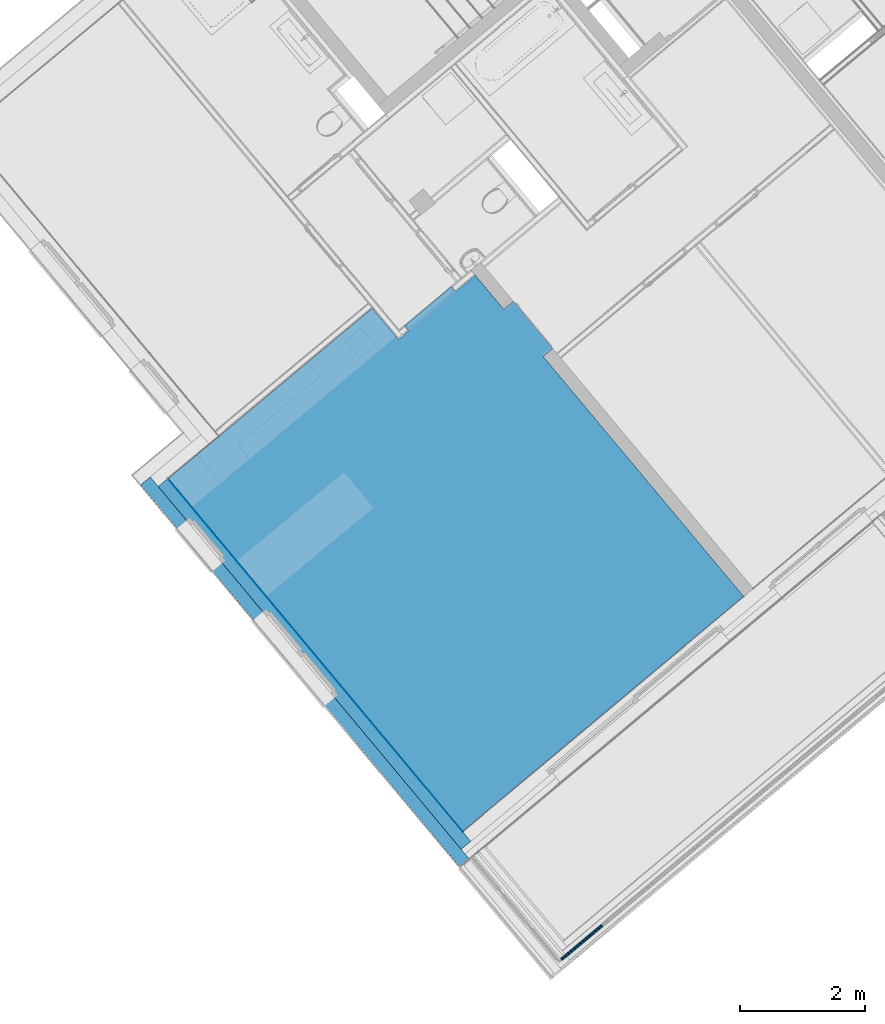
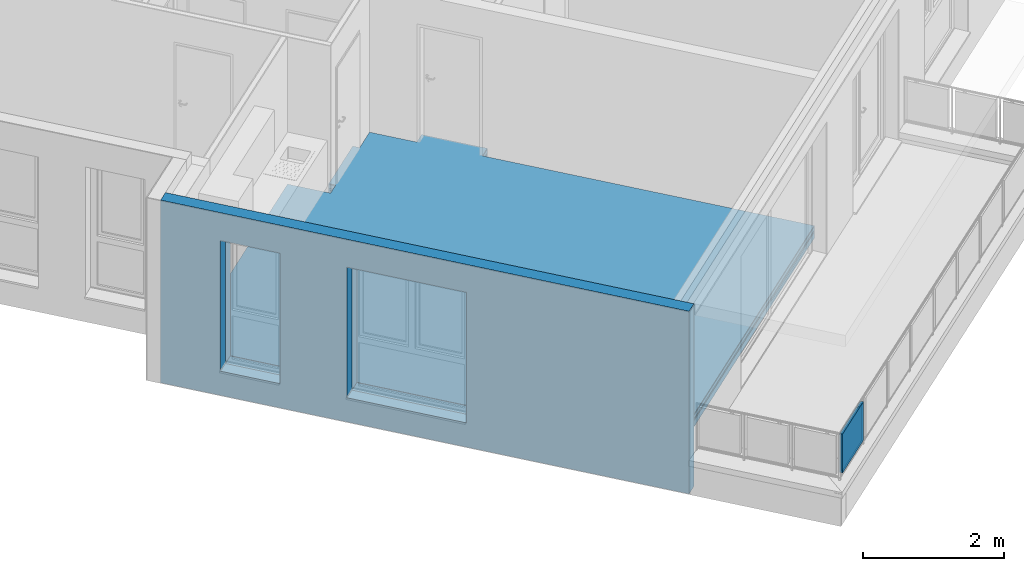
# One storey, part 18 of 53: 9 building element parts, 2 openings, 3 elements without a shape of their own.
"""IFC4 building model written with IfcOpenShell, lengths in metres."""

from ifc_helpers import new_model, entity, si_unit, converted_unit, derived_unit, direction, frame, origin_with_axes, place, context, subcontext, project, spatial, polygons, material, type_object, element, aggregate, save


model = new_model("IFC4")

# Units and contexts
model_context = context("Model", 3, precision=1e-05, world=origin_with_axes(), true_north=direction((0.0, 1.0)))
body_context = subcontext(model_context, "Body", "Model", "MODEL_VIEW")
ifc_project = project(units=[si_unit("LENGTHUNIT", "METRE"), si_unit("AREAUNIT", "SQUARE_METRE"), si_unit("VOLUMEUNIT", "CUBIC_METRE"), converted_unit("PLANEANGLEUNIT", "DEGREE", entity("IfcPlaneAngleMeasure", 0.0174532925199), si_unit("PLANEANGLEUNIT", "RADIAN"), dimensions=[0, 0, 0, 0, 0, 0, 0]), converted_unit("TIMEUNIT", "Year", entity("IfcTimeMeasure", 31556926.0), si_unit("TIMEUNIT", "SECOND"), dimensions=[0, 0, 1, 0, 0, 0, 0]), si_unit("MASSUNIT", "GRAM", prefix="KILO"), si_unit("THERMODYNAMICTEMPERATUREUNIT", "DEGREE_CELSIUS"), si_unit("LUMINOUSINTENSITYUNIT", "LUMEN"), si_unit("ENERGYUNIT", "JOULE", prefix="MEGA"), derived_unit("THERMALCONDUCTANCEUNIT", [(si_unit("POWERUNIT", "WATT"), 1), (si_unit("LENGTHUNIT", "METRE"), -1), (si_unit("THERMODYNAMICTEMPERATUREUNIT", "KELVIN"), -1)]), derived_unit("SPECIFICHEATCAPACITYUNIT", [(si_unit("ENERGYUNIT", "JOULE"), 1), (si_unit("MASSUNIT", "GRAM", prefix="KILO"), -1), (si_unit("THERMODYNAMICTEMPERATUREUNIT", "KELVIN"), -1)]), derived_unit("MASSDENSITYUNIT", [(si_unit("MASSUNIT", "GRAM", prefix="KILO"), 1), (si_unit("VOLUMEUNIT", "CUBIC_METRE"), -1)])], contexts=[model_context])

# Site, building, storey
site_placement = place(None, frame((-0.00153261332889, -0.00661245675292, 0.0), z_axis=(0.0, 0.0, 1.0), x_axis=(1.0, 0.0, 0.0)))
site = spatial("IfcSite", under=ifc_project, at=site_placement, Name="Gelände", CompositionType="ELEMENT")
building_placement = place(site_placement, origin_with_axes())
building = spatial("IfcBuilding", under=site, at=building_placement, Name="Gebäude", CompositionType="ELEMENT")
storey_placement = place(building_placement, frame((0.0, 0.0, 2.74), z_axis=(0.0, 0.0, 1.0), x_axis=(1.0, 0.0, 0.0)))
storey = spatial("IfcBuildingStorey", under=building, at=storey_placement, Name="OG1", CompositionType="ELEMENT", Elevation=2.74)

# Covering, building element parts
covering_type = type_object("IfcCoveringType", Name="DE 01 Decke Wohnung/Wohnung Parkett 220", PredefinedType="NOTDEFINED")
covering_placement = place(storey_placement, frame((-5.70397946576, 14.4521649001, 0.22), z_axis=(0.0, 0.0, 1.0), x_axis=(1.0, 0.0, 0.0)))
covering = element("IfcCovering", 1, at=covering_placement, inside=storey, type_object=covering_type, Name="Decke-008", PredefinedType="NOTDEFINED")
ifc_material_1 = material(Name="Parkett")
building_element_part_1_placement = place(covering_placement, origin_with_axes())
building_element_part_1 = element("IfcBuildingElementPart", 2, at=building_element_part_1_placement, material=ifc_material_1, Name="Parkett", PredefinedType="NOTDEFINED", context=body_context, shape_type="Tessellation", body=[
    polygons([(0.0, 0.0, 0.0), (0.0, 0.0, -0.015), (4.72287580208, -5.65659490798, -0.015), (4.72287580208, -5.65659490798, 0.0), (0.816505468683, 0.678801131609, 0.0), (0.816505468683, 0.678801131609, -0.015), (9.22431998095, -1.89021530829, -0.015), (0.815654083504, 0.679820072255, -0.015), (3.27141938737, 2.73185313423, -0.015), (3.68817916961, 2.23309701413, -0.015), (3.84896946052, 2.36745312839, -0.015), (3.78164240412, 2.4480265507, -0.015), (4.54133474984, 3.08282396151, -0.015), (4.60866166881, 3.00225040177, -0.015), (4.91929369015, 3.26181401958, -0.015), (5.37753149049, 2.71341900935, -0.015), (5.53100473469, 2.84166079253, -0.015), (6.16580214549, 2.08196858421, -0.015), (6.01232903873, 1.9537266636, -0.015), (9.22431998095, -1.89021530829, 0.0), (0.815654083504, 0.679820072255, 0.0), (6.01232903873, 1.9537266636, 0.0), (6.16580214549, 2.08196858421, 0.0), (5.53100473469, 2.84166079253, 0.0), (5.37753149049, 2.71341900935, 0.0), (4.91929369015, 3.26181401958, 0.0), (4.60866166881, 3.00225040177, 0.0), (4.54133474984, 3.08282396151, 0.0), (3.78164240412, 2.4480265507, 0.0), (3.84896946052, 2.36745312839, 0.0), (3.68817916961, 2.23309701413, 0.0), (3.27141938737, 2.73185313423, 0.0)], [[[1, 2, 3, 4]], [[5, 6, 2, 1]], [[7, 3, 2, 6, 8, 9, 10, 11, 12, 13, 14, 15, 16, 17, 18, 19]], [[4, 3, 7, 20]], [[21, 5, 1, 4, 20, 22, 23, 24, 25, 26, 27, 28, 29, 30, 31, 32]], [[21, 8, 6, 5]], [[32, 9, 8, 21]], [[31, 10, 9, 32]], [[30, 11, 10, 31]], [[29, 12, 11, 30]], [[28, 13, 12, 29]], [[27, 14, 13, 28]], [[26, 15, 14, 27]], [[25, 16, 15, 26]], [[24, 17, 16, 25]], [[23, 18, 17, 24]], [[22, 19, 18, 23]], [[20, 7, 19, 22]]], closed=True),
])
ifc_material_2 = material(Name="Estrich")
building_element_part_2_placement = place(covering_placement, origin_with_axes())
building_element_part_2 = element("IfcBuildingElementPart", 3, at=building_element_part_2_placement, material=ifc_material_2, Name="Estrich", PredefinedType="NOTDEFINED", context=body_context, shape_type="Tessellation", body=[
    polygons([(0.0, 0.0, -0.015), (0.0, 0.0, -0.08), (4.72287580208, -5.65659490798, -0.08), (4.72287580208, -5.65659490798, -0.015), (0.816505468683, 0.678801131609, -0.015), (0.816505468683, 0.678801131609, -0.08), (9.22431998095, -1.89021530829, -0.08), (0.815654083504, 0.679820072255, -0.08), (3.27141938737, 2.73185313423, -0.08), (3.68817916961, 2.23309701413, -0.08), (3.84896946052, 2.36745312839, -0.08), (3.78164240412, 2.4480265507, -0.08), (4.54133474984, 3.08282396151, -0.08), (4.60866166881, 3.00225040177, -0.08), (4.91929369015, 3.26181401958, -0.08), (5.37753149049, 2.71341900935, -0.08), (5.53100473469, 2.84166079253, -0.08), (6.16580214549, 2.08196858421, -0.08), (6.01232903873, 1.9537266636, -0.08), (9.22431998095, -1.89021530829, -0.015), (0.815654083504, 0.679820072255, -0.015), (6.01232903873, 1.9537266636, -0.015), (6.16580214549, 2.08196858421, -0.015), (5.53100473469, 2.84166079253, -0.015), (5.37753149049, 2.71341900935, -0.015), (4.91929369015, 3.26181401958, -0.015), (4.60866166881, 3.00225040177, -0.015), (4.54133474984, 3.08282396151, -0.015), (3.78164240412, 2.4480265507, -0.015), (3.84896946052, 2.36745312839, -0.015), (3.68817916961, 2.23309701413, -0.015), (3.27141938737, 2.73185313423, -0.015)], [[[1, 2, 3, 4]], [[5, 6, 2, 1]], [[7, 3, 2, 6, 8, 9, 10, 11, 12, 13, 14, 15, 16, 17, 18, 19]], [[4, 3, 7, 20]], [[21, 5, 1, 4, 20, 22, 23, 24, 25, 26, 27, 28, 29, 30, 31, 32]], [[21, 8, 6, 5]], [[32, 9, 8, 21]], [[31, 10, 9, 32]], [[30, 11, 10, 31]], [[29, 12, 11, 30]], [[28, 13, 12, 29]], [[27, 14, 13, 28]], [[26, 15, 14, 27]], [[25, 16, 15, 26]], [[24, 17, 16, 25]], [[23, 18, 17, 24]], [[22, 19, 18, 23]], [[20, 7, 19, 22]]], closed=True),
])
ifc_material_3 = material(Name="Trittschalldämmung")
building_element_part_3_placement = place(covering_placement, origin_with_axes())
building_element_part_3 = element("IfcBuildingElementPart", 4, at=building_element_part_3_placement, material=ifc_material_3, Name="Trittschalldämmung", PredefinedType="NOTDEFINED", context=body_context, shape_type="Tessellation", body=[
    polygons([(0.0, 0.0, -0.08), (0.0, 0.0, -0.11), (4.72287580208, -5.65659490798, -0.11), (4.72287580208, -5.65659490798, -0.08), (0.816505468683, 0.678801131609, -0.08), (0.816505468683, 0.678801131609, -0.11), (9.22431998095, -1.89021530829, -0.11), (0.815654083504, 0.679820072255, -0.11), (3.27141938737, 2.73185313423, -0.11), (3.68817916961, 2.23309701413, -0.11), (3.84896946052, 2.36745312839, -0.11), (3.78164240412, 2.4480265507, -0.11), (4.54133474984, 3.08282396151, -0.11), (4.60866166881, 3.00225040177, -0.11), (4.91929369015, 3.26181401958, -0.11), (5.37753149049, 2.71341900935, -0.11), (5.53100473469, 2.84166079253, -0.11), (6.16580214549, 2.08196858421, -0.11), (6.01232903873, 1.9537266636, -0.11), (9.22431998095, -1.89021530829, -0.08), (0.815654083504, 0.679820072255, -0.08), (6.01232903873, 1.9537266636, -0.08), (6.16580214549, 2.08196858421, -0.08), (5.53100473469, 2.84166079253, -0.08), (5.37753149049, 2.71341900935, -0.08), (4.91929369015, 3.26181401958, -0.08), (4.60866166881, 3.00225040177, -0.08), (4.54133474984, 3.08282396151, -0.08), (3.78164240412, 2.4480265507, -0.08), (3.84896946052, 2.36745312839, -0.08), (3.68817916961, 2.23309701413, -0.08), (3.27141938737, 2.73185313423, -0.08)], [[[1, 2, 3, 4]], [[5, 6, 2, 1]], [[7, 3, 2, 6, 8, 9, 10, 11, 12, 13, 14, 15, 16, 17, 18, 19]], [[4, 3, 7, 20]], [[21, 5, 1, 4, 20, 22, 23, 24, 25, 26, 27, 28, 29, 30, 31, 32]], [[21, 8, 6, 5]], [[32, 9, 8, 21]], [[31, 10, 9, 32]], [[30, 11, 10, 31]], [[29, 12, 11, 30]], [[28, 13, 12, 29]], [[27, 14, 13, 28]], [[26, 15, 14, 27]], [[25, 16, 15, 26]], [[24, 17, 16, 25]], [[23, 18, 17, 24]], [[22, 19, 18, 23]], [[20, 7, 19, 22]]], closed=True),
])
ifc_material_4 = material(Name="Schüttung")
building_element_part_4_placement = place(covering_placement, origin_with_axes())
building_element_part_4 = element("IfcBuildingElementPart", 5, at=building_element_part_4_placement, material=ifc_material_4, Name="Schüttung", PredefinedType="NOTDEFINED", context=body_context, shape_type="Tessellation", body=[
    polygons([(4.72287580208, -5.65659490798, -0.11), (0.0, 0.0, -0.11), (0.0, 0.0, -0.22), (4.72287580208, -5.65659490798, -0.22), (0.815654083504, 0.679820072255, -0.11), (0.816505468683, 0.678801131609, -0.11), (9.22431998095, -1.89021530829, -0.11), (6.01232903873, 1.9537266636, -0.11), (6.16580214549, 2.08196858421, -0.11), (5.53100473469, 2.84166079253, -0.11), (5.37753149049, 2.71341900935, -0.11), (4.91929369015, 3.26181401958, -0.11), (4.60866166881, 3.00225040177, -0.11), (4.54133474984, 3.08282396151, -0.11), (3.78164240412, 2.4480265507, -0.11), (3.84896946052, 2.36745312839, -0.11), (3.68817916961, 2.23309701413, -0.11), (3.27141938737, 2.73185313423, -0.11), (0.816505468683, 0.678801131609, -0.22), (9.22431998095, -1.89021530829, -0.22), (0.815654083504, 0.679820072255, -0.22), (3.27141938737, 2.73185313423, -0.22), (3.68817916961, 2.23309701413, -0.22), (3.84896946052, 2.36745312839, -0.22), (3.78164240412, 2.4480265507, -0.22), (4.54133474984, 3.08282396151, -0.22), (4.60866166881, 3.00225040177, -0.22), (4.91929369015, 3.26181401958, -0.22), (5.37753149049, 2.71341900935, -0.22), (5.53100473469, 2.84166079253, -0.22), (6.16580214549, 2.08196858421, -0.22), (6.01232903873, 1.9537266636, -0.22)], [[[1, 2, 3, 4]], [[5, 6, 2, 1, 7, 8, 9, 10, 11, 12, 13, 14, 15, 16, 17, 18]], [[2, 6, 19, 3]], [[20, 4, 3, 19, 21, 22, 23, 24, 25, 26, 27, 28, 29, 30, 31, 32]], [[7, 1, 4, 20]], [[6, 5, 21, 19]], [[8, 7, 20, 32]], [[9, 8, 32, 31]], [[10, 9, 31, 30]], [[11, 10, 30, 29]], [[12, 11, 29, 28]], [[13, 12, 28, 27]], [[14, 13, 27, 26]], [[15, 14, 26, 25]], [[16, 15, 25, 24]], [[17, 16, 24, 23]], [[18, 17, 23, 22]], [[5, 18, 22, 21]]], closed=True),
])
aggregate(covering, [building_element_part_1, building_element_part_2, building_element_part_3, building_element_part_4])

# Space
space_placement = place(storey_placement, frame((5.82112883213, 13.939405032, 0.22), z_axis=(0.0, 0.0, 1.0), x_axis=(-0.766948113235, -0.641709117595, 0.0)))
space = spatial("IfcSpace", under=storey, at=space_placement, CompositionType="ELEMENT", PredefinedType="NOTDEFINED")

# Wall, openings, building element parts
wall_type = type_object("IfcWallType", Name="AW EG 420", PredefinedType="NOTDEFINED")
wall_placement = place(space_placement, frame((8.92967801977, -8.21035466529, -0.42), z_axis=(0.0, 0.0, 1.0), x_axis=(0.00104326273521, 0.999999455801, 0.0)))
wall = element("IfcWall", 6, at=wall_placement, inside=space, type_object=wall_type, Name="Wand-003", PredefinedType="NOTDEFINED")
opening_1_placement = place(wall_placement, frame((3.93119741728, 0.0, 0.42), z_axis=(0.0, 0.0, 1.0), x_axis=(1.0, 0.0, 0.0)))
element("IfcOpeningElement", 7, at=opening_1_placement, cuts=wall, Name="Fenster-001", context=body_context, identifier="Reference", shape_type="Tessellation", body=[
    polygons([(0.9, 0.215, 0.0), (0.9, 0.215, 2.26), (0.9, -4.04027070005, 2.26), (0.9, -4.04027070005, 0.0), (0.9, 4.46027070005, 0.0), (0.9, 4.46027070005, 2.26), (-0.9, 0.215, 2.26), (-0.9, -4.04027070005, 2.26), (-0.9, 4.46027070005, 2.26), (-0.9, -4.04027070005, 0.0), (-0.9, 0.215, 0.0), (-0.9, 4.46027070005, 0.0)], [[[1, 2, 3, 4]], [[2, 1, 5, 6]], [[7, 8, 3, 2, 6, 9]], [[8, 10, 4, 3]], [[1, 4, 10, 11, 12, 5]], [[6, 5, 12, 9]], [[7, 11, 10, 8]], [[11, 7, 9, 12]]], closed=True),
])
opening_2_placement = place(wall_placement, frame((1.57118282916, 0.0, 0.42), z_axis=(0.0, 0.0, 1.0), x_axis=(1.0, 0.0, 0.0)))
element("IfcOpeningElement", 8, at=opening_2_placement, cuts=wall, Name="Fenster-001", context=body_context, identifier="Reference", shape_type="Tessellation", body=[
    polygons([(0.45, 0.215, 0.0), (0.45, 0.215, 2.26), (0.45, -4.04027070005, 2.26), (0.45, -4.04027070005, 0.0), (0.45, 4.46027070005, 0.0), (0.45, 4.46027070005, 2.26), (-0.45, 0.215, 2.26), (-0.45, -4.04027070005, 2.26), (-0.45, 4.46027070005, 2.26), (-0.45, -4.04027070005, 0.0), (-0.45, 0.215, 0.0), (-0.45, 4.46027070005, 0.0)], [[[1, 2, 3, 4]], [[2, 1, 5, 6]], [[7, 8, 3, 2, 6, 9]], [[8, 10, 4, 3]], [[1, 4, 10, 11, 12, 5]], [[6, 5, 12, 9]], [[7, 11, 10, 8]], [[11, 7, 9, 12]]], closed=True),
])
ifc_material_5 = material(Name="Zementputz")
building_element_part_5_placement = place(wall_placement, origin_with_axes())
building_element_part_5 = element("IfcBuildingElementPart", 9, at=building_element_part_5_placement, material=ifc_material_5, Name="Zementputz", PredefinedType="NOTDEFINED", context=body_context, shape_type="Tessellation", body=[
    polygons([(0.420878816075, 0.415, 0.2), (7.79492595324, 0.415, 0.2), (7.79492595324, 0.415, 2.96), (0.420878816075, 0.415, 2.96), (3.03119741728, 0.415, 2.68), (4.83119741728, 0.415, 2.68), (4.83119741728, 0.415, 0.42), (3.03119741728, 0.415, 0.42), (1.12118282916, 0.415, 0.42), (1.12118282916, 0.415, 2.68), (2.02118282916, 0.415, 2.68), (2.02118282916, 0.415, 0.42), (0.420889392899, 0.42, 0.2), (7.79492073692, 0.42, 0.2), (7.79492073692, 0.42, 2.96), (0.420889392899, 0.42, 2.96), (4.83119741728, 0.42, 2.68), (3.03119741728, 0.42, 2.68), (4.83119741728, 0.42, 0.42), (3.03119741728, 0.42, 0.42), (1.12118282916, 0.42, 0.42), (1.12118282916, 0.42, 2.68), (2.02118282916, 0.42, 2.68), (2.02118282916, 0.42, 0.42)], [[[1, 2, 3, 4], [5, 6, 7, 8], [9, 10, 11, 12]], [[2, 1, 13, 14]], [[2, 14, 15, 3]], [[16, 4, 3, 15]], [[13, 1, 4, 16]], [[17, 6, 5, 18]], [[19, 7, 6, 17]], [[20, 8, 7, 19]], [[18, 5, 8, 20]], [[21, 22, 10, 9]], [[22, 23, 11, 10]], [[23, 24, 12, 11]], [[24, 21, 9, 12]], [[14, 13, 16, 15], [19, 17, 18, 20], [21, 24, 23, 22]]], closed=True),
])
ifc_material_6 = material(Name="Stahlbeton Wand")
building_element_part_6_placement = place(wall_placement, origin_with_axes())
building_element_part_6 = element("IfcBuildingElementPart", 10, at=building_element_part_6_placement, material=ifc_material_6, Name="Stahlbeton Wand", PredefinedType="NOTDEFINED", context=body_context, shape_type="Tessellation", body=[
    polygons([(0.415455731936, 0.215, 0.0), (7.99513471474, 0.215, 0.0), (7.99513471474, 0.215, 2.96), (0.415455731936, 0.215, 2.96), (3.03119741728, 0.215, 2.68), (4.83119741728, 0.215, 2.68), (4.83119741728, 0.215, 0.42), (3.03119741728, 0.215, 0.42), (1.12118282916, 0.215, 0.42), (1.12118282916, 0.215, 2.68), (2.02118282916, 0.215, 2.68), (2.02118282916, 0.215, 0.42), (0.415456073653, 0.215161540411, 0.0), (7.99513145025, 0.21812909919, 0.0), (7.99492606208, 0.415, 2.96), (7.99513145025, 0.21812909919, 0.2), (7.99492606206, 0.415, 0.2), (0.415878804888, 0.415, 2.96), (0.415878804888, 0.415, 0.2), (0.415456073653, 0.215161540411, 0.2), (4.83119741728, 0.415, 2.68), (3.03119741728, 0.415, 2.68), (4.83119741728, 0.415, 0.42), (3.03119741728, 0.415, 0.42), (1.12118282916, 0.415, 0.42), (1.12118282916, 0.415, 2.68), (2.02118282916, 0.415, 2.68), (2.02118282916, 0.415, 0.42)], [[[1, 2, 3, 4], [5, 6, 7, 8], [9, 10, 11, 12]], [[2, 1, 13, 14]], [[15, 3, 2, 14, 16, 17]], [[18, 4, 3, 15]], [[4, 18, 19, 20, 13, 1]], [[21, 6, 5, 22]], [[23, 7, 6, 21]], [[24, 8, 7, 23]], [[22, 5, 8, 24]], [[25, 26, 10, 9]], [[26, 27, 11, 10]], [[27, 28, 12, 11]], [[28, 25, 9, 12]], [[13, 20, 16, 14]], [[16, 20, 19, 17]], [[17, 19, 18, 15], [23, 21, 22, 24], [25, 28, 27, 26]]], closed=True),
])
ifc_material_7 = material(Name="EPS 1")
building_element_part_7_placement = place(wall_placement, origin_with_axes())
building_element_part_7 = element("IfcBuildingElementPart", 11, at=building_element_part_7_placement, material=ifc_material_7, Name="EPS 1", PredefinedType="NOTDEFINED", context=body_context, shape_type="Tessellation", body=[
    polygons([(0.215032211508, 0.015, 3.16), (0.215032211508, 0.015, 0.0), (8.19534347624, 0.015, 0.0), (8.19534347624, 0.015, 3.16), (3.03119741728, 0.015, 2.68), (4.83119741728, 0.015, 2.68), (4.83119741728, 0.015, 0.42), (3.03119741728, 0.015, 0.42), (1.12118282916, 0.015, 0.42), (1.12118282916, 0.015, 2.68), (2.02118282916, 0.015, 2.68), (2.02118282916, 0.015, 0.42), (0.21545528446, 0.215, 3.16), (0.21545528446, 0.215, 0.0), (8.09014223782, 0.214862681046, 0.0), (8.19513496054, 0.214868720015, 0.0), (8.09014213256, 0.215, 0.0), (8.19513496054, 0.214868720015, 0.2), (8.19513482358, 0.215, 0.2), (8.19513482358, 0.215, 2.96), (8.19513496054, 0.214868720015, 2.96), (8.19513496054, 0.214868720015, 3.16), (8.09014223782, 0.214862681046, 3.16), (8.09014209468, 0.215, 3.16), (4.83119741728, 0.215, 2.68), (3.03119741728, 0.215, 2.68), (4.83119741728, 0.215, 0.42), (3.03119741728, 0.215, 0.42), (1.12118282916, 0.215, 0.42), (1.12118282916, 0.215, 2.68), (2.02118282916, 0.215, 2.68), (2.02118282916, 0.215, 0.42), (8.09014213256, 0.215, 0.2), (8.09014209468, 0.215, 2.96), (8.09014223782, 0.214862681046, 0.2), (8.09014223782, 0.214862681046, 2.96)], [[[1, 2, 3, 4], [5, 6, 7, 8], [9, 10, 11, 12]], [[2, 1, 13, 14]], [[15, 16, 3, 2, 14, 17]], [[4, 3, 16, 18, 19, 20, 21, 22]], [[23, 24, 13, 1, 4, 22]], [[25, 6, 5, 26]], [[27, 7, 6, 25]], [[28, 8, 7, 27]], [[26, 5, 8, 28]], [[29, 30, 10, 9]], [[30, 31, 11, 10]], [[31, 32, 12, 11]], [[32, 29, 9, 12]], [[20, 19, 33, 17, 14, 13, 24, 34], [27, 25, 26, 28], [29, 32, 31, 30]], [[15, 35, 18, 16]], [[35, 15, 17, 33]], [[18, 35, 33, 19]], [[34, 36, 21, 20]], [[21, 36, 23, 22]], [[23, 36, 34, 24]]], closed=True),
])
aggregate(wall, [building_element_part_5, building_element_part_6, building_element_part_7])

# Railing, building element parts
railing_type = type_object("IfcRailingType", Name="Geländerart", PredefinedType="NOTDEFINED")
railing_placement = place(space_placement, frame((8.7233739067, 0.0, 0.16), z_axis=(0.0, 0.0, 1.0), x_axis=(-0.766948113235, 0.641709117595, 0.0)))
railing = element("IfcRailing", 12, at=railing_placement, inside=space, type_object=railing_type, Name="Geländer - 001", PredefinedType="NOTDEFINED")
ifc_material_8 = material(Name="Profilit")
building_element_part_8_placement = place(railing_placement, origin_with_axes())
building_element_part_8 = element("IfcBuildingElementPart", 13, at=building_element_part_8_placement, material=ifc_material_8, Name="Profilit", PredefinedType="NOTDEFINED", context=body_context, shape_type="Tessellation", body=[
    polygons([(2.10401614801, -1.05520223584, 0.135), (1.47202293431, -1.58342449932, 0.135), (1.47202293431, -1.58342449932, 0.775), (2.10401614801, -1.05520223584, 0.775), (1.48484898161, -1.59877026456, 0.135), (2.11684219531, -1.07054800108, 0.135), (1.48484898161, -1.59877026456, 0.775), (2.11684219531, -1.07054800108, 0.775)], [[[1, 2, 3, 4]], [[5, 2, 1, 6]], [[7, 3, 2, 5]], [[4, 3, 7, 8]], [[1, 4, 8, 6]], [[7, 5, 6, 8]]], closed=True),
])
ifc_material_9 = material(Name="Aluminium")
building_element_part_9_placement = place(railing_placement, origin_with_axes())
building_element_part_9 = element("IfcBuildingElementPart", 14, at=building_element_part_9_placement, material=ifc_material_9, Name="Aluminium", PredefinedType="NOTDEFINED", context=body_context, shape_type="Tessellation", body=[
    polygons([(1.54205220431, -1.53466846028, 0.12), (1.59576238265, -1.48977729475, 0.12), (1.59576238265, -1.48977729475, 0.095), (1.54205220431, -1.53466846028, 0.095), (1.54525871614, -1.53850490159, 0.12), (1.59896889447, -1.49361373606, 0.12), (1.59896889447, -1.49361373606, 0.095), (1.54525871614, -1.53850490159, 0.095)], [[[1, 2, 3, 4]], [[5, 6, 2, 1]], [[2, 6, 7, 3]], [[4, 3, 7, 8]], [[1, 4, 8, 5]], [[8, 7, 6, 5]]], closed=True),
    polygons([(2.04360641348, -1.11546759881, 0.79), (1.98989623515, -1.16035876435, 0.79), (1.98989623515, -1.16035876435, 0.795), (2.04360641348, -1.11546759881, 0.795), (2.04681292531, -1.11930404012, 0.79), (1.99310274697, -1.16419520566, 0.79), (1.99310274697, -1.16419520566, 0.795), (2.04681292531, -1.11930404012, 0.795)], [[[1, 2, 3, 4]], [[5, 6, 2, 1]], [[2, 6, 7, 3]], [[4, 3, 7, 8]], [[1, 4, 8, 5]], [[8, 7, 6, 5]]], closed=True),
    polygons([(1.48295919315, -1.61989912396, 0.12), (1.45089407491, -1.58153471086, 0.12), (2.10590593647, -1.03407337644, 0.12), (2.13797105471, -1.07243778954, 0.12), (1.49830495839, -1.60707307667, 0.14), (1.48868542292, -1.59556375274, 0.14), (1.48484898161, -1.59877026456, 0.135), (1.47202293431, -1.58342449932, 0.135), (1.47585937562, -1.5802179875, 0.14), (1.46623984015, -1.56870866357, 0.14), (2.09056017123, -1.04689942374, 0.14), (2.09056017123, -1.04689942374, 0.77), (1.46623984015, -1.56870866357, 0.77), (1.46623984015, -1.56870866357, 0.14), (1.45089407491, -1.58153471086, 0.12), (1.45089407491, -1.58153471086, 0.79), (2.10590593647, -1.03407337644, 0.79), (2.13797105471, -1.07243778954, 0.79), (1.48295919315, -1.61989912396, 0.79), (1.48295919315, -1.61989912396, 0.12), (1.49830495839, -1.60707307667, 0.14), (1.49830495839, -1.60707307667, 0.77), (2.12262528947, -1.08526383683, 0.77), (2.12262528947, -1.08526383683, 0.14), (2.113005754, -1.0737545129, 0.14), (2.113005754, -1.0737545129, 0.77), (1.48868542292, -1.59556375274, 0.77), (1.48868542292, -1.59556375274, 0.14), (1.48484898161, -1.59877026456, 0.135), (1.48484898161, -1.59877026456, 0.775), (2.11684219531, -1.07054800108, 0.775), (2.11684219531, -1.07054800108, 0.135), (2.10401614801, -1.05520223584, 0.135), (2.10401614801, -1.05520223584, 0.775), (1.47202293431, -1.58342449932, 0.775), (1.47202293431, -1.58342449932, 0.135), (1.47585937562, -1.5802179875, 0.14), (1.47585937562, -1.5802179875, 0.77), (2.1001797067, -1.05840874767, 0.77), (2.1001797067, -1.05840874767, 0.14)], [[[1, 2, 3, 4]], [[1, 5, 6, 7, 8, 9, 10, 2]], [[2, 10, 11, 12, 13, 14, 15, 16, 17, 3]], [[4, 3, 17, 18]], [[5, 1, 4, 18, 19, 20, 21, 22, 23, 24]], [[6, 5, 24, 25]], [[7, 6, 25, 26, 27, 28, 29, 30, 31, 32]], [[8, 7, 32, 33]], [[9, 8, 33, 34, 35, 36, 37, 38, 39, 40]], [[10, 9, 40, 11]], [[11, 40, 39, 12]], [[12, 39, 38, 13]], [[13, 38, 37, 14]], [[20, 15, 14, 37, 36, 29, 28, 21]], [[19, 16, 15, 20]], [[18, 17, 16, 19]], [[27, 22, 21, 28]], [[26, 23, 22, 27]], [[25, 24, 23, 26]], [[35, 30, 29, 36]], [[34, 31, 30, 35]], [[33, 32, 31, 34]]], closed=True),
])
aggregate(railing, [building_element_part_8, building_element_part_9])

save(model, "model.ifc")
